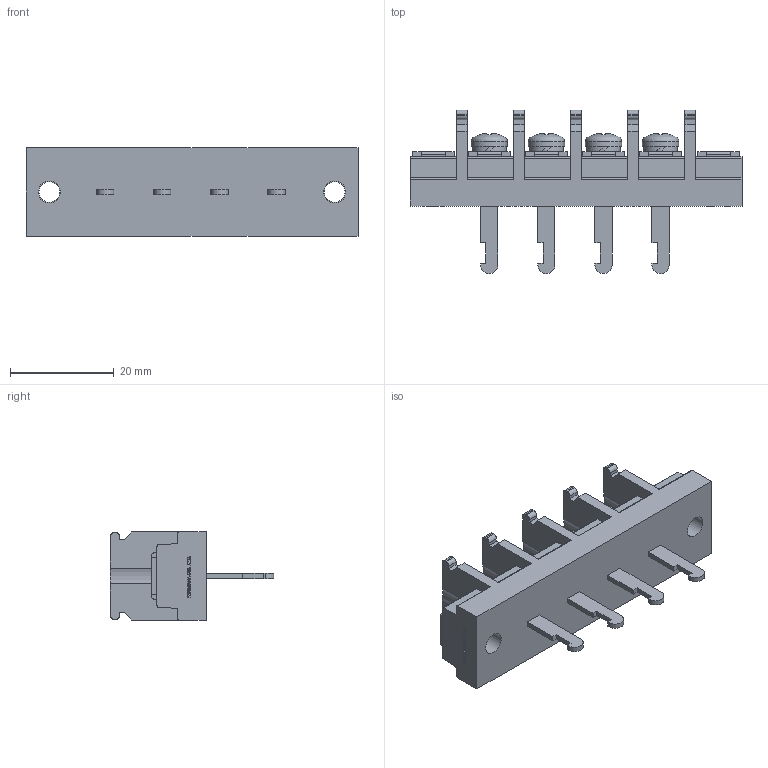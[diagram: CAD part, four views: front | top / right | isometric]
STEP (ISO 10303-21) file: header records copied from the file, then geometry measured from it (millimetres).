
FILE_DESCRIPTION(/* description */ ('Alibre Inc.'),/* implementation_level */ '2;1');
FILE_NAME(/* name */ 'export0',/* time_stamp */ '2015-10-19T19:57:55+09:00',/* author */ (''),/* organization */ (''),/* preprocessor_version */ 'ST-DEVELOPER v14',/* originating_system */ 'Alibre',/* authorisation */ '');
FILE_SCHEMA (('CONFIG_CONTROL_DESIGN'));
Length unit declared in the file: centimetre
Products named in the file (1): ID_1
Bounding box: 64 x 31.5 x 17 mm (x, y, z)
Volume: 11378.2 mm3; surface area: 6807.9 mm2
Topology: 1 solids, 1 shells, 760 faces, 2096 edges, 1394 vertices
Faces by surface type: plane 542, bspline 104, cylinder 86, cone 16, torus 8, sphere 4
Full cylindrical faces by diameter (mm): 4 x6, 4.2 x2, 6.5 x4, 7 x4
Entity records: 23425 total; most frequent: CARTESIAN_POINT 5236, ORIENTED_EDGE 4124, DIRECTION 2851, EDGE_CURVE 2062, VECTOR 1517, LINE 1517, VERTEX_POINT 1380, AXIS2_PLACEMENT_3D 931
